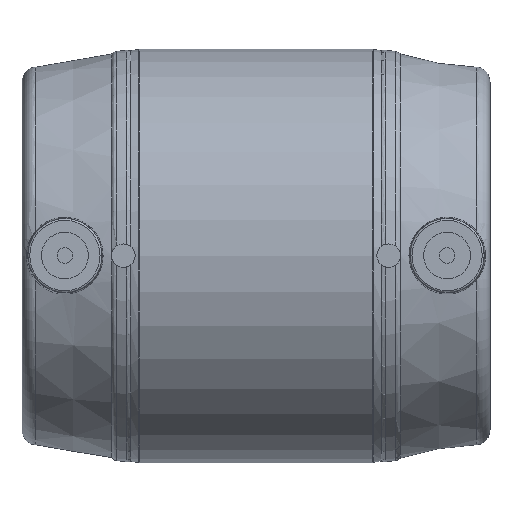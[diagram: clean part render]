
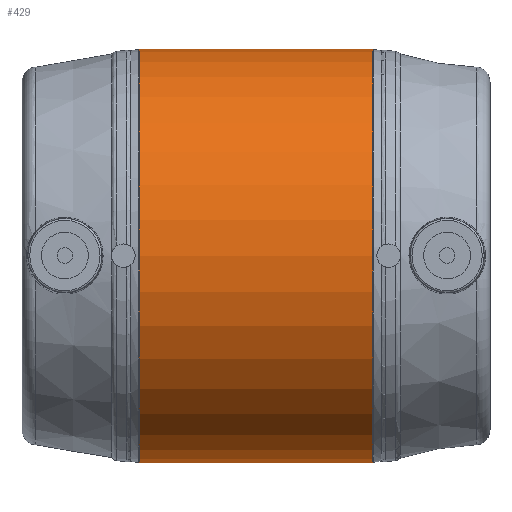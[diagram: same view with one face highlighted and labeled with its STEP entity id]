
A CAD part, top view. The second image highlights one B-rep face of the part: STEP entity #429.
In plain terms, the highlighted cylindrical face has radius 53 mm (diameter 106 mm), a full revolution.
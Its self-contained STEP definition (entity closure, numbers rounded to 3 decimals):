
#21=CYLINDRICAL_SURFACE('',#490,53.);
#89=ORIENTED_EDGE('',*,*,#183,.T.);
#90=ORIENTED_EDGE('',*,*,#184,.T.);
#183=EDGE_CURVE('',#231,#231,#266,.F.);
#184=EDGE_CURVE('',#232,#232,#267,.T.);
#231=VERTEX_POINT('',#775);
#232=VERTEX_POINT('',#777);
#266=CIRCLE('',#491,53.);
#267=CIRCLE('',#492,53.);
#303=EDGE_LOOP('',(#89));
#304=EDGE_LOOP('',(#90));
#365=FACE_BOUND('',#303,.T.);
#366=FACE_BOUND('',#304,.T.);
#429=ADVANCED_FACE('',(#365,#366),#21,.T.);
#490=AXIS2_PLACEMENT_3D('',#773,#581,#582);
#491=AXIS2_PLACEMENT_3D('',#774,#583,#584);
#492=AXIS2_PLACEMENT_3D('',#776,#585,#586);
#581=DIRECTION('',(-1.,0.,0.));
#582=DIRECTION('',(0.,0.,1.));
#583=DIRECTION('',(1.,0.,0.));
#584=DIRECTION('',(0.,0.,-1.));
#585=DIRECTION('',(1.,0.,0.));
#586=DIRECTION('',(0.,0.,-1.));
#773=CARTESIAN_POINT('',(-60.,0.,0.));
#774=CARTESIAN_POINT('',(29.916,0.,0.));
#775=CARTESIAN_POINT('',(29.916,0.,-53.));
#776=CARTESIAN_POINT('',(-29.916,0.,0.));
#777=CARTESIAN_POINT('',(-29.916,0.,-53.));
